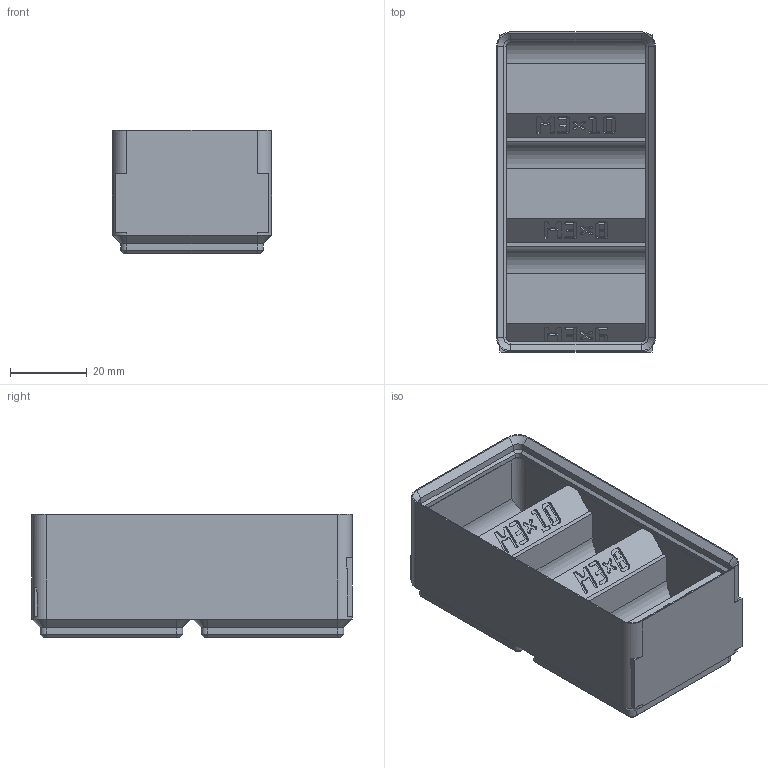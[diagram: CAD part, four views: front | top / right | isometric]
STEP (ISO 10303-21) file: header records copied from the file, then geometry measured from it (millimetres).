
FILE_DESCRIPTION(('Open CASCADE Model'),'2;1');
FILE_NAME('Open CASCADE Shape Model','2026-11-03T10:59:33',('Author'),( 'Open CASCADE'),'Open CASCADE STEP processor 8.0','build123d', 'Unknown');
FILE_SCHEMA(('AUTOMOTIVE_DESIGN { 1 0 10303 214 1 1 1 1 }'));
Products named in the file (1): COMPOUND
Bounding box: 41.5 x 83.5 x 32.1 mm (x, y, z)
Volume: 31193.6 mm3; surface area: 24729.4 mm2
Topology: 1 solids, 1 shells, 1484 faces, 4312 edges, 2852 vertices
Faces by surface type: plane 1425, cylinder 31, cone 28
Entity records: 103871 total; most frequent: CARTESIAN_POINT 17966, DIRECTION 15610, LINE 12424, VECTOR 12424, ORIENTED_EDGE 8624, PCURVE 8624, DEFINITIONAL_REPRESENTATION 8624, EDGE_CURVE 4312
